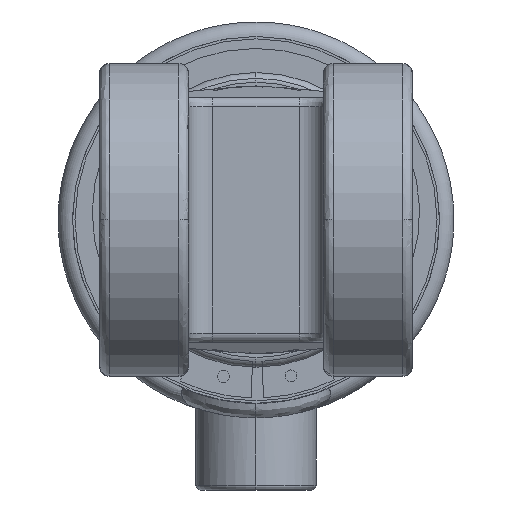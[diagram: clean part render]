
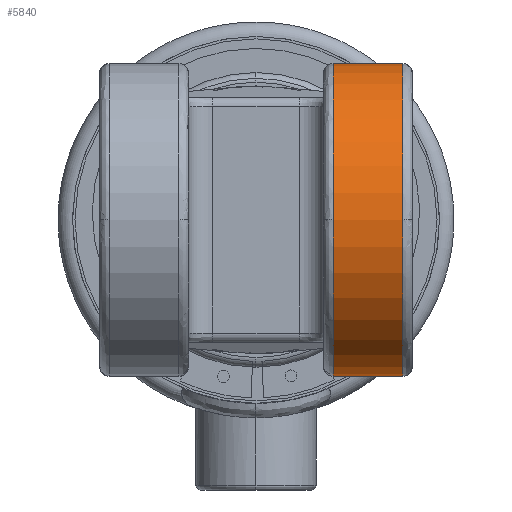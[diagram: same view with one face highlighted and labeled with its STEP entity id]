
A CAD part, left-side view. The second image highlights one B-rep face of the part: STEP entity #5840.
In plain terms, the highlighted cylindrical face has radius 32.5 mm (diameter 65 mm), a partial arc.
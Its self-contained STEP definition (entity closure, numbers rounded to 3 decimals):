
#149 = CARTESIAN_POINT ( 'NONE',  ( 44.795, -30.5, -32.5 ) ) ;
#413 = DIRECTION ( 'NONE',  ( 0., 1., 0. ) ) ;
#867 = ORIENTED_EDGE ( 'NONE', *, *, #8803, .T. ) ;
#917 = VECTOR ( 'NONE', #413, 1000. ) ;
#1081 = ORIENTED_EDGE ( 'NONE', *, *, #2316, .F. ) ;
#1113 = ORIENTED_EDGE ( 'NONE', *, *, #4410, .T. ) ;
#1344 = AXIS2_PLACEMENT_3D ( 'NONE', #9760, #8951, #1849 ) ;
#1498 = DIRECTION ( 'NONE',  ( 0., 1., 0. ) ) ;
#1507 = CARTESIAN_POINT ( 'NONE',  ( 44.795, -30.5, 0. ) ) ;
#1849 = DIRECTION ( 'NONE',  ( 0., 0., 1. ) ) ;
#1851 = CARTESIAN_POINT ( 'NONE',  ( 77.295, -16., 0. ) ) ;
#2316 = EDGE_CURVE ( 'NONE', #2551, #3904, #7456, .T. ) ;
#2402 = EDGE_CURVE ( 'NONE', #3904, #5266, #7186, .T. ) ;
#2411 = DIRECTION ( 'NONE',  ( 0., 0., 1. ) ) ;
#2551 = VERTEX_POINT ( 'NONE', #4275 ) ;
#3023 = CARTESIAN_POINT ( 'NONE',  ( 44.795, -16., 0. ) ) ;
#3413 = CARTESIAN_POINT ( 'NONE',  ( 44.795, -16., -32.5 ) ) ;
#3497 = CIRCLE ( 'NONE', #4108, 32.5 ) ;
#3771 = DIRECTION ( 'NONE',  ( 0., 1., 0. ) ) ;
#3830 = DIRECTION ( 'NONE',  ( 0., 1., 0. ) ) ;
#3904 = VERTEX_POINT ( 'NONE', #5443 ) ;
#3918 = DIRECTION ( 'NONE',  ( 1., 0., 0. ) ) ;
#4108 = AXIS2_PLACEMENT_3D ( 'NONE', #1507, #7743, #2411 ) ;
#4275 = CARTESIAN_POINT ( 'NONE',  ( 44.795, -30.5, 32.5 ) ) ;
#4410 = EDGE_CURVE ( 'NONE', #2551, #6393, #7435, .T. ) ;
#5078 = CYLINDRICAL_SURFACE ( 'NONE', #1344, 32.5 ) ;
#5266 = VERTEX_POINT ( 'NONE', #1851 ) ;
#5443 = CARTESIAN_POINT ( 'NONE',  ( 44.795, -16., 32.5 ) ) ;
#5760 = CARTESIAN_POINT ( 'NONE',  ( 44.795, -32.5, 32.5 ) ) ;
#5840 = ADVANCED_FACE ( 'NONE', ( #9767 ), #5078, .T. ) ;
#5864 = CARTESIAN_POINT ( 'NONE',  ( 77.295, -30.5, 0. ) ) ;
#6393 = VERTEX_POINT ( 'NONE', #5864 ) ;
#6602 = VECTOR ( 'NONE', #3771, 1000. ) ;
#6842 = CARTESIAN_POINT ( 'NONE',  ( 44.795, -16., 0. ) ) ;
#6940 = ORIENTED_EDGE ( 'NONE', *, *, #7165, .T. ) ;
#7165 = EDGE_CURVE ( 'NONE', #9320, #10628, #8659, .T. ) ;
#7186 = CIRCLE ( 'NONE', #11314, 32.5 ) ;
#7253 = CIRCLE ( 'NONE', #9685, 32.5 ) ;
#7322 = CARTESIAN_POINT ( 'NONE',  ( 44.795, -32.5, -32.5 ) ) ;
#7435 = CIRCLE ( 'NONE', #11336, 32.5 ) ;
#7456 = LINE ( 'NONE', #5760, #917 ) ;
#7734 = DIRECTION ( 'NONE',  ( 1., 0., 0. ) ) ;
#7743 = DIRECTION ( 'NONE',  ( 0., 1., 0. ) ) ;
#8599 = ORIENTED_EDGE ( 'NONE', *, *, #10468, .F. ) ;
#8659 = LINE ( 'NONE', #7322, #6602 ) ;
#8803 = EDGE_CURVE ( 'NONE', #6393, #9320, #3497, .T. ) ;
#8951 = DIRECTION ( 'NONE',  ( 0., 1., 0. ) ) ;
#9132 = CARTESIAN_POINT ( 'NONE',  ( 44.795, -30.5, 0. ) ) ;
#9220 = DIRECTION ( 'NONE',  ( 0., 1., 0. ) ) ;
#9320 = VERTEX_POINT ( 'NONE', #149 ) ;
#9484 = ORIENTED_EDGE ( 'NONE', *, *, #2402, .F. ) ;
#9685 = AXIS2_PLACEMENT_3D ( 'NONE', #3023, #9220, #3918 ) ;
#9760 = CARTESIAN_POINT ( 'NONE',  ( 44.795, -32.5, 0. ) ) ;
#9767 = FACE_OUTER_BOUND ( 'NONE', #10965, .T. ) ;
#10008 = DIRECTION ( 'NONE',  ( 0., 0., 1. ) ) ;
#10468 = EDGE_CURVE ( 'NONE', #5266, #10628, #7253, .T. ) ;
#10628 = VERTEX_POINT ( 'NONE', #3413 ) ;
#10965 = EDGE_LOOP ( 'NONE', ( #1113, #867, #6940, #8599, #9484, #1081 ) ) ;
#11314 = AXIS2_PLACEMENT_3D ( 'NONE', #6842, #1498, #7734 ) ;
#11336 = AXIS2_PLACEMENT_3D ( 'NONE', #9132, #3830, #10008 ) ;
